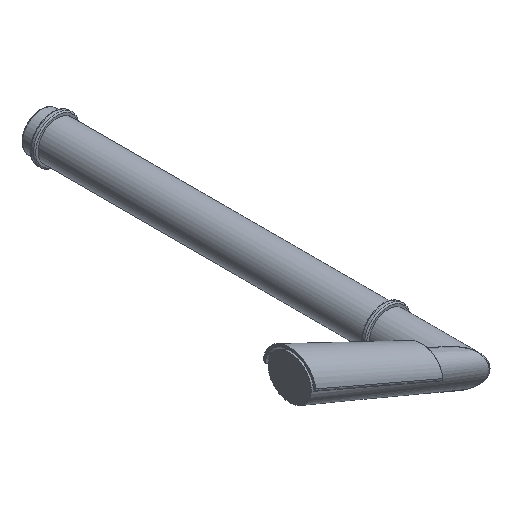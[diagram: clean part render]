
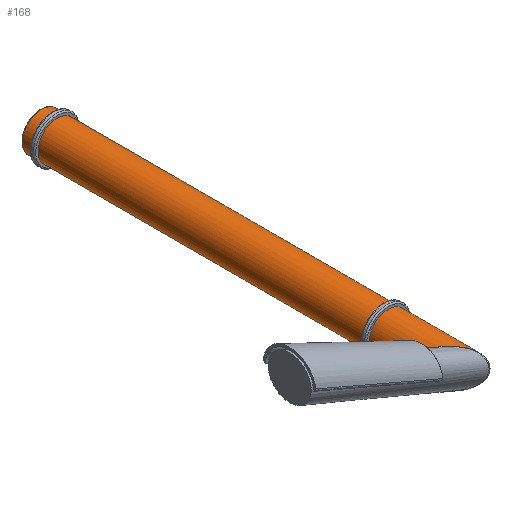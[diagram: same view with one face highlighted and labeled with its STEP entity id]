
A CAD part, isometric view. The second image highlights one B-rep face of the part: STEP entity #168.
In plain terms, the highlighted cylindrical face has radius 8 mm (diameter 16 mm), a full revolution.
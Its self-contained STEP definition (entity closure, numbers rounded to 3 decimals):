
#168=ADVANCED_FACE('',(#1069,#1071),#1073,.T.);
#1069=FACE_OUTER_BOUND('',#1070,.T.);
#1070=EDGE_LOOP('',(#2092));
#1071=FACE_BOUND('',#1072,.T.);
#1072=EDGE_LOOP('',(#2093,#2094,#2095));
#1073=CYLINDRICAL_SURFACE('',#1074,8.);
#1074=AXIS2_PLACEMENT_3D('',#1075,#1076,#1077);
#1075=CARTESIAN_POINT('',(0.,172.,81.728));
#1076=DIRECTION('',(0.,-1.,0.));
#1077=DIRECTION('',(1.,0.,0.));
#2092=ORIENTED_EDGE('',*,*,#2156,.T.);
#2093=ORIENTED_EDGE('',*,*,#2157,.F.);
#2094=ORIENTED_EDGE('',*,*,#2158,.F.);
#2095=ORIENTED_EDGE('',*,*,#2159,.F.);
#2156=EDGE_CURVE('',#2213,#2213,#2214,.T.);
#2157=EDGE_CURVE('',#2215,#2216,#2217,.T.);
#2158=EDGE_CURVE('',#2218,#2215,#2219,.T.);
#2159=EDGE_CURVE('',#2216,#2218,#2220,.T.);
#2213=VERTEX_POINT('',#2534);
#2214=CIRCLE('',#2535,8.);
#2215=VERTEX_POINT('',#2539);
#2216=VERTEX_POINT('',#2540);
#2217=B_SPLINE_CURVE_WITH_KNOTS('',3,
(#2541,#2542,#2543,#2544,#2545,#2546,#2547,#2548,#2549,#2550,#2551,#2552,#2553,#2554,
#2555,#2556,#2557,#2558,#2559,#2560,#2561,#2562),
.UNSPECIFIED.,.F.,.F.,
(4,1,1,1,1,1,1,1,1,1,1,1,1,1,1,1,1,1,1,4),
(0.,0.093,0.172,0.234,0.295,0.355,
0.419,0.48,0.539,0.593,0.644,
0.692,0.738,0.781,0.823,0.863,
0.9,0.94,0.973,1.),
.UNSPECIFIED.);
#2218=VERTEX_POINT('',#2563);
#2219=B_SPLINE_CURVE_WITH_KNOTS('',3,
(#2564,#2565,#2566,#2567,#2568,#2569,#2570,#2571,#2572,#2573,#2574,#2575,#2576,#2577,
#2578,#2579,#2580,#2581,#2582,#2583,#2584,#2585,#2586,#2587,#2588,#2589,#2590,#2591,
#2592,#2593,#2594,#2595,#2596,#2597,#2598,#2599,#2600,#2601),
.UNSPECIFIED.,.F.,.F.,
(4,1,1,1,1,1,1,1,1,1,1,1,1,1,1,1,1,1,1,1,1,1,1,1,1,1,1,1,1,1,1,1,1,1,1,4),
(0.,0.058,0.109,0.155,0.202,0.247,
0.29,0.33,0.367,0.401,0.433,
0.463,0.49,0.516,0.543,0.567,
0.588,0.603,0.617,0.628,0.639,
0.651,0.663,0.677,0.69,0.708,
0.729,0.754,0.779,0.807,0.835,
0.865,0.898,0.933,0.967,1.),
.UNSPECIFIED.);
#2220=B_SPLINE_CURVE_WITH_KNOTS('',3,
(#2602,#2603,#2604,#2605,#2606,#2607,#2608,#2609,#2610,#2611,#2612,#2613,#2614,#2615,
#2616,#2617,#2618,#2619),
.UNSPECIFIED.,.F.,.F.,
(4,1,1,1,1,1,1,1,1,1,1,1,1,1,1,4),
(0.,0.074,0.139,0.193,0.236,0.278,
0.321,0.369,0.429,0.499,0.58,
0.658,0.742,0.842,0.93,1.),
.UNSPECIFIED.);
#2534=CARTESIAN_POINT('',(8.,171.5,81.728));
#2535=AXIS2_PLACEMENT_3D('',#2536,#2537,#2538);
#2536=CARTESIAN_POINT('',(0.,171.5,81.728));
#2537=DIRECTION('',(0.,-1.,0.));
#2538=DIRECTION('',(1.,0.,0.));
#2539=CARTESIAN_POINT('',(-3.358,3.358,74.467));
#2540=CARTESIAN_POINT('',(8.,-7.001,81.728));
#2541=CARTESIAN_POINT('',(-3.358,3.358,74.467));
#2542=CARTESIAN_POINT('',(-2.931,2.984,74.27));
#2543=CARTESIAN_POINT('',(-2.122,2.282,73.98));
#2544=CARTESIAN_POINT('',(-1.001,1.291,73.769));
#2545=CARTESIAN_POINT('',(-0.025,0.426,73.712));
#2546=CARTESIAN_POINT('',(0.862,-0.364,73.759));
#2547=CARTESIAN_POINT('',(1.75,-1.158,73.905));
#2548=CARTESIAN_POINT('',(2.621,-1.94,74.151));
#2549=CARTESIAN_POINT('',(3.467,-2.702,74.5));
#2550=CARTESIAN_POINT('',(4.242,-3.403,74.927));
#2551=CARTESIAN_POINT('',(4.943,-4.041,75.42));
#2552=CARTESIAN_POINT('',(5.562,-4.608,75.959));
#2553=CARTESIAN_POINT('',(6.109,-5.113,76.543));
#2554=CARTESIAN_POINT('',(6.581,-5.553,77.158));
#2555=CARTESIAN_POINT('',(6.985,-5.934,77.804));
#2556=CARTESIAN_POINT('',(7.319,-6.256,78.471));
#2557=CARTESIAN_POINT('',(7.584,-6.516,79.148));
#2558=CARTESIAN_POINT('',(7.787,-6.726,79.849));
#2559=CARTESIAN_POINT('',(7.921,-6.874,80.534));
#2560=CARTESIAN_POINT('',(7.987,-6.965,81.17));
#2561=CARTESIAN_POINT('',(8.,-6.99,81.556));
#2562=CARTESIAN_POINT('',(8.,-7.001,81.728));
#2563=CARTESIAN_POINT('',(3.253,-3.253,89.037));
#2564=CARTESIAN_POINT('',(3.253,-3.253,89.037));
#2565=CARTESIAN_POINT('',(2.869,-2.811,89.208));
#2566=CARTESIAN_POINT('',(2.124,-1.968,89.471));
#2567=CARTESIAN_POINT('',(1.047,-0.751,89.682));
#2568=CARTESIAN_POINT('',(0.035,0.387,89.748));
#2569=CARTESIAN_POINT('',(-0.933,1.47,89.694));
#2570=CARTESIAN_POINT('',(-1.871,2.516,89.525));
#2571=CARTESIAN_POINT('',(-2.75,3.491,89.259));
#2572=CARTESIAN_POINT('',(-3.561,4.387,88.91));
#2573=CARTESIAN_POINT('',(-4.298,5.197,88.493));
#2574=CARTESIAN_POINT('',(-4.956,5.917,88.024));
#2575=CARTESIAN_POINT('',(-5.542,6.552,87.515));
#2576=CARTESIAN_POINT('',(-6.058,7.108,86.971));
#2577=CARTESIAN_POINT('',(-6.506,7.585,86.402));
#2578=CARTESIAN_POINT('',(-6.907,8.006,85.787));
#2579=CARTESIAN_POINT('',(-7.247,8.355,85.145));
#2580=CARTESIAN_POINT('',(-7.521,8.628,84.484));
#2581=CARTESIAN_POINT('',(-7.706,8.804,83.9));
#2582=CARTESIAN_POINT('',(-7.827,8.912,83.4));
#2583=CARTESIAN_POINT('',(-7.903,8.972,82.991));
#2584=CARTESIAN_POINT('',(-7.952,9.005,82.622));
#2585=CARTESIAN_POINT('',(-7.984,9.019,82.267));
#2586=CARTESIAN_POINT('',(-8.001,9.014,81.898));
#2587=CARTESIAN_POINT('',(-8.,8.987,81.496));
#2588=CARTESIAN_POINT('',(-7.978,8.935,81.084));
#2589=CARTESIAN_POINT('',(-7.928,8.847,80.621));
#2590=CARTESIAN_POINT('',(-7.838,8.71,80.091));
#2591=CARTESIAN_POINT('',(-7.682,8.49,79.458));
#2592=CARTESIAN_POINT('',(-7.455,8.19,78.795));
#2593=CARTESIAN_POINT('',(-7.153,7.805,78.121));
#2594=CARTESIAN_POINT('',(-6.794,7.36,77.483));
#2595=CARTESIAN_POINT('',(-6.366,6.841,76.864));
#2596=CARTESIAN_POINT('',(-5.87,6.25,76.273));
#2597=CARTESIAN_POINT('',(-5.3,5.583,75.718));
#2598=CARTESIAN_POINT('',(-4.674,4.858,75.219));
#2599=CARTESIAN_POINT('',(-4.022,4.112,74.799));
#2600=CARTESIAN_POINT('',(-3.577,3.605,74.569));
#2601=CARTESIAN_POINT('',(-3.358,3.358,74.467));
#2602=CARTESIAN_POINT('',(8.,-7.001,81.728));
#2603=CARTESIAN_POINT('',(8.,-7.025,81.979));
#2604=CARTESIAN_POINT('',(7.978,-7.014,82.456));
#2605=CARTESIAN_POINT('',(7.888,-6.976,83.108));
#2606=CARTESIAN_POINT('',(7.772,-6.904,83.644));
#2607=CARTESIAN_POINT('',(7.647,-6.819,84.093));
#2608=CARTESIAN_POINT('',(7.511,-6.724,84.494));
#2609=CARTESIAN_POINT('',(7.35,-6.607,84.897));
#2610=CARTESIAN_POINT('',(7.145,-6.454,85.338));
#2611=CARTESIAN_POINT('',(6.876,-6.249,85.832));
#2612=CARTESIAN_POINT('',(6.52,-5.971,86.381));
#2613=CARTESIAN_POINT('',(6.094,-5.631,86.928));
#2614=CARTESIAN_POINT('',(5.605,-5.233,87.452));
#2615=CARTESIAN_POINT('',(5.041,-4.767,87.957));
#2616=CARTESIAN_POINT('',(4.422,-4.248,88.411));
#2617=CARTESIAN_POINT('',(3.809,-3.729,88.773));
#2618=CARTESIAN_POINT('',(3.424,-3.4,88.961));
#2619=CARTESIAN_POINT('',(3.253,-3.253,89.037));
